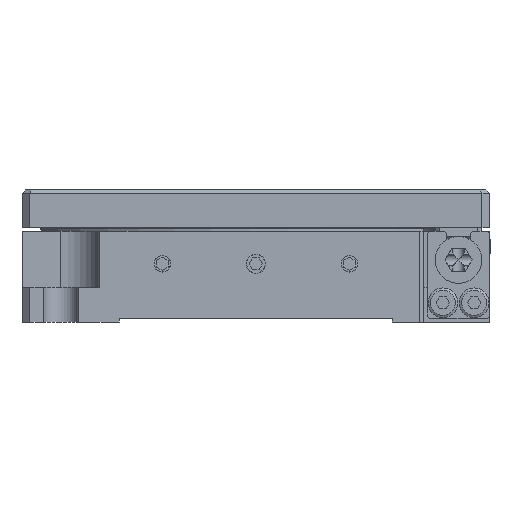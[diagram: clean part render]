
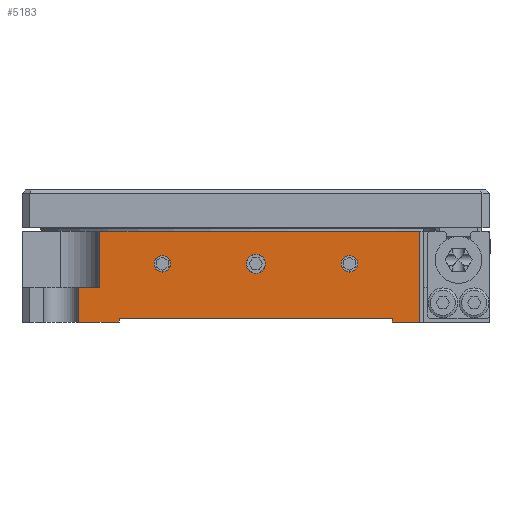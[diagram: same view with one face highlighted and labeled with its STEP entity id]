
A CAD part, front view. The second image highlights one B-rep face of the part: STEP entity #5183.
In plain terms, the highlighted planar face has unit normal (0, -1, 0).
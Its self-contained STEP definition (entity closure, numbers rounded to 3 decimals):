
#3103=CARTESIAN_POINT('',(1.23,-30.0,7.5));
#3104=VERTEX_POINT('',#3103);
#3105=CARTESIAN_POINT('',(0.0,-30.0,7.5));
#3106=DIRECTION('',(0.0,1.0,0.0));
#3107=DIRECTION('',(1.0,0.0,0.0));
#3108=AXIS2_PLACEMENT_3D('',#3105,#3106,#3107);
#3109=CIRCLE('',#3108,1.23);
#3110=EDGE_CURVE('',#3104,#3104,#3109,.T.);
#4020=CARTESIAN_POINT('',(13.057,-30.0,7.5));
#4021=VERTEX_POINT('',#4020);
#4022=CARTESIAN_POINT('',(12.,-30.0,7.5));
#4023=DIRECTION('',(0.0,1.0,0.0));
#4024=DIRECTION('',(1.0,0.0,0.0));
#4025=AXIS2_PLACEMENT_3D('',#4022,#4023,#4024);
#4026=CIRCLE('',#4025,1.057);
#4027=EDGE_CURVE('',#4021,#4021,#4026,.T.);
#4061=CARTESIAN_POINT('',(-10.944,-30.0,7.5));
#4062=VERTEX_POINT('',#4061);
#4063=CARTESIAN_POINT('',(-12.,-30.0,7.5));
#4064=DIRECTION('',(0.0,1.0,0.0));
#4065=DIRECTION('',(1.0,0.0,0.0));
#4066=AXIS2_PLACEMENT_3D('',#4063,#4064,#4065);
#4067=CIRCLE('',#4066,1.057);
#4068=EDGE_CURVE('',#4062,#4062,#4067,.T.);
#4488=CARTESIAN_POINT('',(-22.75,-30.0,4.5));
#4489=VERTEX_POINT('',#4488);
#4496=CARTESIAN_POINT('',(-20.,-30.,4.5));
#4497=VERTEX_POINT('',#4496);
#4498=CARTESIAN_POINT('',(-20.,-30.,4.5));
#4499=DIRECTION('',(-1.0,0.0,0.0));
#4500=VECTOR('',#4499,2.75);
#4501=LINE('',#4498,#4500);
#4502=EDGE_CURVE('',#4497,#4489,#4501,.T.);
#4824=CARTESIAN_POINT('',(21.,-30.0,11.7));
#4825=VERTEX_POINT('',#4824);
#4832=CARTESIAN_POINT('',(21.,-30.0,0.0));
#4833=VERTEX_POINT('',#4832);
#4834=CARTESIAN_POINT('',(21.,-30.0,11.7));
#4835=DIRECTION('',(0.0,0.0,-1.0));
#4836=VECTOR('',#4835,11.7);
#4837=LINE('',#4834,#4836);
#4838=EDGE_CURVE('',#4825,#4833,#4837,.T.);
#4937=CARTESIAN_POINT('',(17.5,-30.0,0.0));
#4938=VERTEX_POINT('',#4937);
#4939=CARTESIAN_POINT('',(17.5,-30.0,0.0));
#4940=DIRECTION('',(1.0,0.0,0.0));
#4941=VECTOR('',#4940,3.5);
#4942=LINE('',#4939,#4941);
#4943=EDGE_CURVE('',#4938,#4833,#4942,.T.);
#4991=CARTESIAN_POINT('',(17.5,-30.0,0.5));
#4992=VERTEX_POINT('',#4991);
#5001=CARTESIAN_POINT('',(17.5,-30.0,0.5));
#5002=DIRECTION('',(0.0,0.0,-1.0));
#5003=VECTOR('',#5002,0.5);
#5004=LINE('',#5001,#5003);
#5005=EDGE_CURVE('',#4992,#4938,#5004,.T.);
#5015=CARTESIAN_POINT('',(-17.5,-30.,0.5));
#5016=VERTEX_POINT('',#5015);
#5023=CARTESIAN_POINT('',(-17.5,-30.,0.0));
#5024=VERTEX_POINT('',#5023);
#5025=CARTESIAN_POINT('',(-17.5,-30.,0.0));
#5026=DIRECTION('',(0.0,0.0,1.0));
#5027=VECTOR('',#5026,0.5);
#5028=LINE('',#5025,#5027);
#5029=EDGE_CURVE('',#5024,#5016,#5028,.T.);
#5048=CARTESIAN_POINT('',(-17.5,-30.,0.5));
#5049=DIRECTION('',(1.0,0.0,0.0));
#5050=VECTOR('',#5049,35.0);
#5051=LINE('',#5048,#5050);
#5052=EDGE_CURVE('',#5016,#4992,#5051,.T.);
#5098=CARTESIAN_POINT('',(-22.75,-30.0,0.0));
#5099=VERTEX_POINT('',#5098);
#5100=CARTESIAN_POINT('',(-22.75,-30.0,0.0));
#5101=DIRECTION('',(1.0,0.0,0.0));
#5102=VECTOR('',#5101,5.25);
#5103=LINE('',#5100,#5102);
#5104=EDGE_CURVE('',#5099,#5024,#5103,.T.);
#5140=CARTESIAN_POINT('',(30.0,-30.0,0.0));
#5141=DIRECTION('',(0.0,-1.0,0.0));
#5142=DIRECTION('',(0.0,0.0,-1.0));
#5143=AXIS2_PLACEMENT_3D('',#5140,#5141,#5142);
#5144=PLANE('',#5143);
#5145=ORIENTED_EDGE('',*,*,#4838,.F.);
#5146=CARTESIAN_POINT('',(-20.,-30.,11.7));
#5147=VERTEX_POINT('',#5146);
#5148=CARTESIAN_POINT('',(21.,-30.0,11.7));
#5149=DIRECTION('',(-1.0,0.0,0.0));
#5150=VECTOR('',#5149,41.);
#5151=LINE('',#5148,#5150);
#5152=EDGE_CURVE('',#4825,#5147,#5151,.T.);
#5153=ORIENTED_EDGE('',*,*,#5152,.T.);
#5154=CARTESIAN_POINT('',(-20.,-30.,11.7));
#5155=DIRECTION('',(0.0,0.0,-1.0));
#5156=VECTOR('',#5155,7.2);
#5157=LINE('',#5154,#5156);
#5158=EDGE_CURVE('',#5147,#4497,#5157,.T.);
#5159=ORIENTED_EDGE('',*,*,#5158,.T.);
#5160=ORIENTED_EDGE('',*,*,#4502,.T.);
#5161=CARTESIAN_POINT('',(-22.75,-30.0,4.5));
#5162=DIRECTION('',(0.0,0.0,-1.0));
#5163=VECTOR('',#5162,4.5);
#5164=LINE('',#5161,#5163);
#5165=EDGE_CURVE('',#4489,#5099,#5164,.T.);
#5166=ORIENTED_EDGE('',*,*,#5165,.T.);
#5167=ORIENTED_EDGE('',*,*,#5104,.T.);
#5168=ORIENTED_EDGE('',*,*,#5029,.T.);
#5169=ORIENTED_EDGE('',*,*,#5052,.T.);
#5170=ORIENTED_EDGE('',*,*,#5005,.T.);
#5171=ORIENTED_EDGE('',*,*,#4943,.T.);
#5172=EDGE_LOOP('',(#5145,#5153,#5159,#5160,#5166,#5167,#5168,#5169,#5170,#5171));
#5173=FACE_OUTER_BOUND('',#5172,.T.);
#5174=ORIENTED_EDGE('',*,*,#4027,.T.);
#5175=EDGE_LOOP('',(#5174));
#5176=FACE_BOUND('',#5175,.T.);
#5177=ORIENTED_EDGE('',*,*,#4068,.T.);
#5178=EDGE_LOOP('',(#5177));
#5179=FACE_BOUND('',#5178,.T.);
#5180=ORIENTED_EDGE('',*,*,#3110,.T.);
#5181=EDGE_LOOP('',(#5180));
#5182=FACE_BOUND('',#5181,.T.);
#5183=ADVANCED_FACE('',(#5173,#5176,#5179,#5182),#5144,.T.);
